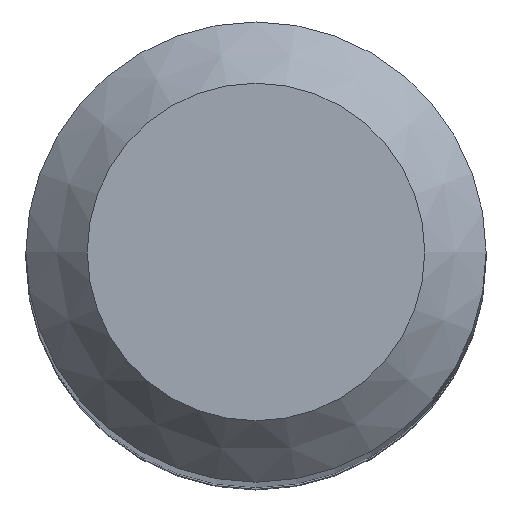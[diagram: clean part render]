
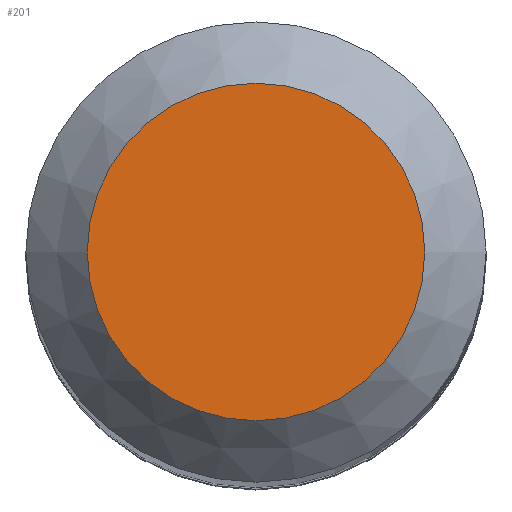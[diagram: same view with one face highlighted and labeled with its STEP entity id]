
A CAD part, top view. The second image highlights one B-rep face of the part: STEP entity #201.
In plain terms, the highlighted planar face has unit normal (0, 0, 1).
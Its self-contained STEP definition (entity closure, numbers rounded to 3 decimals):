
#185=CARTESIAN_POINT('',(0.,0.,60.));
#186=DIRECTION('',(0.,0.0,-1.0));
#187=DIRECTION('',(-1.0,0.0,0.));
#188=AXIS2_PLACEMENT_3D('',#185,#186,#187);
#189=PLANE('',#188);
#190=CARTESIAN_POINT('',(-2.2,0.,60.));
#191=VERTEX_POINT('',#190);
#192=CARTESIAN_POINT('',(0.,0.,60.));
#193=DIRECTION('',(0.,0.0,-1.0));
#194=DIRECTION('',(-1.0,0.0,0.));
#195=AXIS2_PLACEMENT_3D('',#192,#193,#194);
#196=CIRCLE('',#195,2.2);
#197=EDGE_CURVE('',#191,#191,#196,.T.);
#198=ORIENTED_EDGE('',*,*,#197,.F.);
#199=EDGE_LOOP('',(#198));
#200=FACE_OUTER_BOUND('',#199,.T.);
#201=ADVANCED_FACE('',(#200),#189,.F.);
